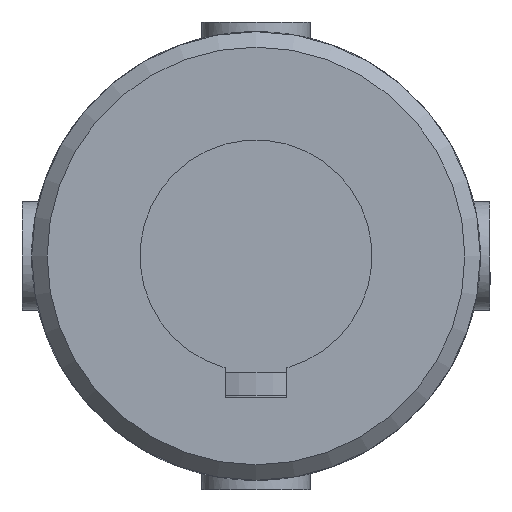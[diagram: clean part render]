
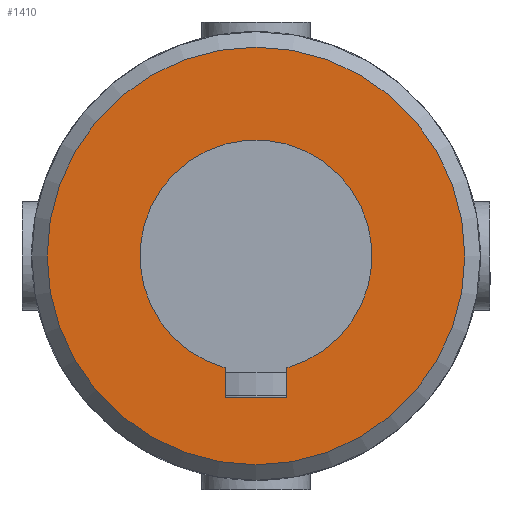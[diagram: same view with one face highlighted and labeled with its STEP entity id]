
A CAD part, front view. The second image highlights one B-rep face of the part: STEP entity #1410.
In plain terms, the highlighted planar face has unit normal (0, -1, 0).
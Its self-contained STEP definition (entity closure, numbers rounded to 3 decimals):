
#179=LINE('',#2753,#236);
#183=LINE('',#2776,#240);
#185=LINE('',#2784,#242);
#236=VECTOR('',#1827,3.843);
#240=VECTOR('',#1839,8.);
#242=VECTOR('',#1843,3.843);
#288=PLANE('',#1547);
#326=FACE_BOUND('',#508,.T.);
#395=FACE_OUTER_BOUND('',#507,.T.);
#507=EDGE_LOOP('',(#1227));
#508=EDGE_LOOP('',(#1228,#1229,#1230,#1231));
#572=CIRCLE('',#1536,15.);
#576=CIRCLE('',#1545,27.);
#687=VERTEX_POINT('',#2750);
#688=VERTEX_POINT('',#2752);
#691=VERTEX_POINT('',#2762);
#693=VERTEX_POINT('',#2774);
#698=VERTEX_POINT('',#2833);
#863=EDGE_CURVE('',#688,#687,#179,.T.);
#867=EDGE_CURVE('',#691,#688,#572,.T.);
#871=EDGE_CURVE('',#687,#693,#183,.T.);
#874=EDGE_CURVE('',#693,#691,#185,.T.);
#880=EDGE_CURVE('',#698,#698,#576,.T.);
#1227=ORIENTED_EDGE('',*,*,#880,.F.);
#1228=ORIENTED_EDGE('',*,*,#871,.T.);
#1229=ORIENTED_EDGE('',*,*,#874,.T.);
#1230=ORIENTED_EDGE('',*,*,#867,.T.);
#1231=ORIENTED_EDGE('',*,*,#863,.T.);
#1410=ADVANCED_FACE('',(#395,#326),#288,.F.);
#1536=AXIS2_PLACEMENT_3D('',#2763,#1833,#1834);
#1545=AXIS2_PLACEMENT_3D('',#2834,#1856,#1857);
#1547=AXIS2_PLACEMENT_3D('',#3034,#1864,#1865);
#1827=DIRECTION('',(0.,0.,-1.));
#1833=DIRECTION('center_axis',(0.,1.,0.));
#1834=DIRECTION('ref_axis',(-1.,0.,0.));
#1839=DIRECTION('',(-1.,0.,0.));
#1843=DIRECTION('',(0.,0.,1.));
#1856=DIRECTION('center_axis',(0.,1.,0.));
#1857=DIRECTION('ref_axis',(1.,0.,0.));
#1864=DIRECTION('center_axis',(0.,1.,0.));
#1865=DIRECTION('ref_axis',(0.,0.,1.));
#2750=CARTESIAN_POINT('',(4.,-75.5,-18.3));
#2752=CARTESIAN_POINT('',(4.,-75.5,-14.457));
#2753=CARTESIAN_POINT('',(4.,-75.5,-7.228));
#2762=CARTESIAN_POINT('',(-4.,-75.5,-14.457));
#2763=CARTESIAN_POINT('Origin',(0.,-75.5,0.));
#2774=CARTESIAN_POINT('',(-4.,-75.5,-18.3));
#2776=CARTESIAN_POINT('',(2.,-75.5,-18.3));
#2784=CARTESIAN_POINT('',(-4.,-75.5,-9.15));
#2833=CARTESIAN_POINT('',(-27.,-75.5,0.));
#2834=CARTESIAN_POINT('Origin',(0.,-75.5,0.));
#3034=CARTESIAN_POINT('Origin',(0.,-75.5,0.));
